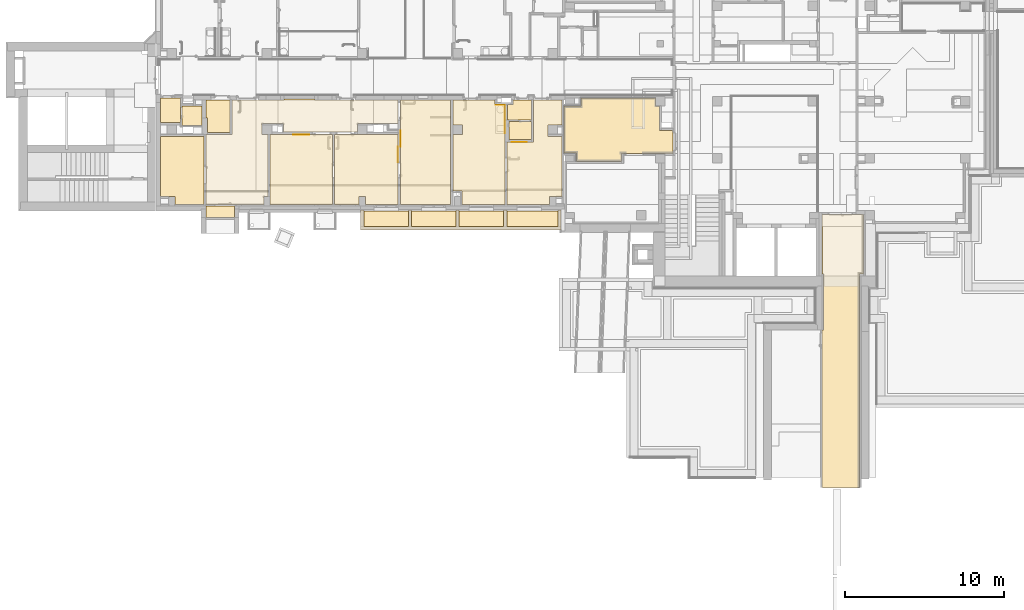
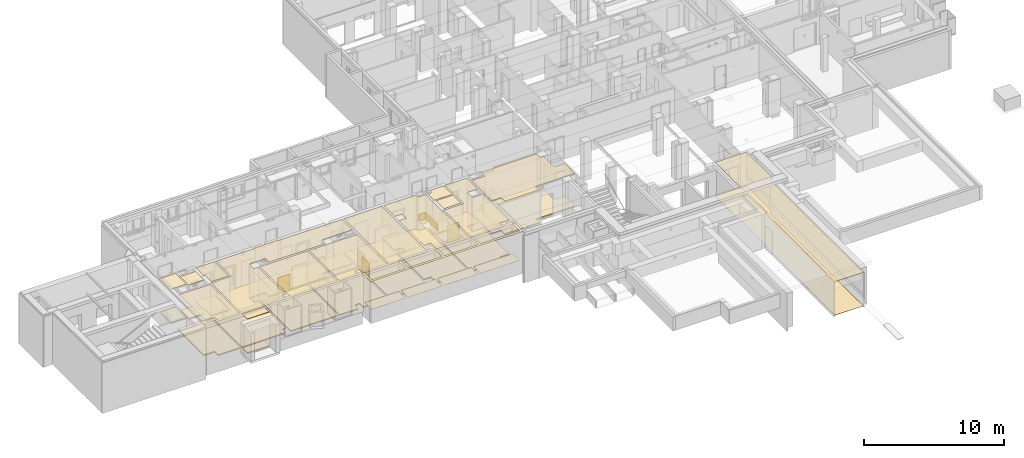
# One storey, part 76 of 84: 40 coverings.
"""IFC4 building model written with IfcOpenShell, lengths in metres."""

from ifc_helpers import new_model, entity, si_unit, converted_unit, derived_unit, frame, frame_2d, origin, origin_with_axes, place, context, subcontext, project, spatial, polyline, rectangle, outline, extrude, material, layer, layer_set, layer_usage, element, save


model = new_model("IFC4")

# Units and contexts
model_context = context("Model", 3, precision=1e-05, world=origin())
body_context = subcontext(model_context, "Body", "Model", "MODEL_VIEW")
ifc_project = project(units=[si_unit("LENGTHUNIT", "METRE"), si_unit("AREAUNIT", "SQUARE_METRE"), si_unit("VOLUMEUNIT", "CUBIC_METRE"), si_unit("MASSUNIT", "GRAM", prefix="KILO"), converted_unit("PLANEANGLEUNIT", "DEGREE", entity("IfcPlaneAngleMeasure", 0.0174532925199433), si_unit("PLANEANGLEUNIT", "RADIAN"), dimensions=[0, 0, 0, 0, 0, 0, 0]), derived_unit("THERMALTRANSMITTANCEUNIT", [(si_unit("POWERUNIT", "WATT"), 1), (si_unit("THERMODYNAMICTEMPERATUREUNIT", "KELVIN"), -1), (si_unit("LENGTHUNIT", "METRE"), -2)]), derived_unit("VOLUMETRICFLOWRATEUNIT", [(si_unit("LENGTHUNIT", "METRE"), 3), (converted_unit("TIMEUNIT", "hour", entity("IfcTimeMeasure", 3600.0), si_unit("TIMEUNIT", "SECOND"), dimensions=[0, 0, 1, 0, 0, 0, 0]), -1), (si_unit("LENGTHUNIT", "METRE"), -1)])], contexts=[model_context])

# Site, building, storey
site_placement = place(None, origin())
site = spatial("IfcSite", under=ifc_project, at=site_placement, Name="3. ASŘ", CompositionType="ELEMENT")
building_placement = place(site_placement, origin())
building = spatial("IfcBuilding", under=site, at=building_placement, Name="Pavilon C", CompositionType="ELEMENT")
storey_placement = place(building_placement, frame((0.0, 0.0, -3.3)))
storey = spatial("IfcBuildingStorey", under=building, at=storey_placement, Name="Půdorys 1.PP", CompositionType="ELEMENT", Elevation=-3.3)

# Coverings
ifc_material_1 = material(Name="KERAMICKÝ OBKLAD")
ifc_layer_1 = layer(ifc_material_1, 0.015)
ifc_layer_set_1 = layer_set([ifc_layer_1])
ifc_layer_usage_1 = layer_usage(ifc_layer_set_1, "AXIS3", "POSITIVE", 0.0)
covering_1_placement = place(storey_placement, frame((14.43, 4.3375, 0.1)))
element("IfcCovering", 1, at=covering_1_placement, inside=storey, material=ifc_layer_usage_1, PredefinedType="CLADDING", context=body_context, shape_type="SweptSolid", body=[
    extrude(rectangle(XDim=1.4, YDim=1.0, at=frame_2d((-0.5, -0.7), x_axis=(0.0, -1.0))), frame((3.63797880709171e-15, 1.0, 0.0), z_axis=(-1.0, 3.63797880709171e-15, 0.0), x_axis=(3.63797880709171e-15, 1.0, 0.0)), (0.0, 0.0, 1.0), 0.015),
])
ifc_material_2 = material(Name="KERAMICKÝ OBKLAD")
ifc_layer_2 = layer(ifc_material_2, 0.015)
ifc_layer_set_2 = layer_set([ifc_layer_2])
ifc_layer_usage_2 = layer_usage(ifc_layer_set_2, "AXIS3", "POSITIVE", 0.0)
covering_2_placement = place(storey_placement, frame((21.4125, 4.595, 0.0)))
element("IfcCovering", 2, at=covering_2_placement, inside=storey, material=ifc_layer_usage_2, PredefinedType="CLADDING", context=body_context, shape_type="SweptSolid", body=[
    extrude(rectangle(XDim=1.5, YDim=0.949999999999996, at=frame_2d((-0.474999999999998, -0.75), x_axis=(0.0, -1.0))), frame((0.949999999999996, 0.0, 0.0), z_axis=(0.0, 1.0, 0.0), x_axis=(1.0, 0.0, 0.0)), (0.0, 0.0, 1.0), 0.015),
])
ifc_material_3 = material(Name="KERAMICKÝ OBKLAD")
ifc_layer_3 = layer(ifc_material_3, 0.015)
ifc_layer_set_3 = layer_set([ifc_layer_3])
ifc_layer_usage_3 = layer_usage(ifc_layer_set_3, "AXIS3", "POSITIVE", 0.0)
covering_3_placement = place(storey_placement, frame((14.22, 3.35, 0.1)))
element("IfcCovering", 3, at=covering_3_placement, inside=storey, material=ifc_layer_usage_3, PredefinedType="CLADDING", context=body_context, shape_type="SweptSolid", body=[
    extrude(rectangle(XDim=1.4, YDim=0.987500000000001, at=frame_2d((-0.493750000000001, -0.7), x_axis=(0.0, -1.0))), frame((0.0, 0.0, 0.0), z_axis=(1.0, -3.68402917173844e-15, 0.0), x_axis=(-3.68402917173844e-15, -1.0, 0.0)), (0.0, 0.0, 1.0), 0.015),
])
ifc_material_4 = material(Name="KERAMICKÝ OBKLAD")
ifc_layer_4 = layer(ifc_material_4, 0.015)
ifc_layer_set_4 = layer_set([ifc_layer_4])
ifc_layer_usage_4 = layer_usage(ifc_layer_set_4, "AXIS3", "POSITIVE", 0.0)
covering_4_placement = place(storey_placement, frame((20.4, 5.175, 0.85)))
element("IfcCovering", 4, at=covering_4_placement, inside=storey, material=ifc_layer_usage_4, PredefinedType="CLADDING", context=body_context, shape_type="SweptSolid", body=[
    extrude(rectangle(XDim=0.6, YDim=0.57, at=frame_2d((-0.285, -0.3), x_axis=(0.0, -1.0))), frame((0.0, 1.77, 0.0), z_axis=(0.0, -1.0, 0.0), x_axis=(-1.0, 0.0, 0.0)), (0.0, 0.0, 1.0), 0.015),
    extrude(rectangle(XDim=0.6, YDim=1.77, at=frame_2d((-0.885, -0.3), x_axis=(0.0, -1.0))), frame((0.57, 1.77, 0.0), z_axis=(-1.0, 0.0, 0.0), x_axis=(0.0, 1.0, 0.0)), (0.0, 0.0, 1.0), 0.015),
])
ifc_material_5 = material(Name="KERAMICKÝ OBKLAD")
ifc_layer_5 = layer(ifc_material_5, 0.015)
ifc_layer_set_5 = layer_set([ifc_layer_5])
ifc_layer_usage_5 = layer_usage(ifc_layer_set_5, "AXIS3", "POSITIVE", 0.0)
covering_5_placement = place(storey_placement, frame((7.65000000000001, 5.07, 0.1)))
element("IfcCovering", 5, at=covering_5_placement, inside=storey, material=ifc_layer_usage_5, PredefinedType="CLADDING", context=body_context, shape_type="SweptSolid", body=[
    extrude(rectangle(XDim=1.4, YDim=1.0, at=frame_2d((-0.5, -0.7), x_axis=(0.0, -1.0))), frame((-9.09494701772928e-16, 0.0, 0.0), z_axis=(0.0, -1.0, 0.0), x_axis=(-1.0, 0.0, 0.0)), (0.0, 0.0, 1.0), 0.015),
])
ifc_material_6 = material(Name="SANACE BETONU")
ifc_layer_6 = layer(ifc_material_6, 0.003)
ifc_layer_set_6 = layer_set([ifc_layer_6])
ifc_layer_usage_6 = layer_usage(ifc_layer_set_6, "AXIS3", "POSITIVE", 0.0)
covering_6_placement = place(storey_placement, frame((12.1, -0.705000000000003, 0.65)))
element("IfcCovering", 6, at=covering_6_placement, inside=storey, material=ifc_layer_usage_6, PredefinedType="FLOORING", context=body_context, shape_type="SweptSolid", body=[
    extrude(rectangle(XDim=2.8, YDim=0.999999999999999, at=frame_2d((1.4, 0.5), x_axis=(1.0, 0.0))), origin_with_axes(), (0.0, 0.0, 1.0), 0.003),
])
ifc_material_7 = material(Name="SANACE BETONU")
ifc_layer_7 = layer(ifc_material_7, 0.003)
ifc_layer_set_7 = layer_set([ifc_layer_7])
ifc_layer_usage_7 = layer_usage(ifc_layer_set_7, "AXIS3", "POSITIVE", 0.0)
covering_7_placement = place(storey_placement, frame((15.1, -0.705000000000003, 0.65)))
element("IfcCovering", 7, at=covering_7_placement, inside=storey, material=ifc_layer_usage_7, PredefinedType="FLOORING", context=body_context, shape_type="SweptSolid", body=[
    extrude(rectangle(XDim=0.999999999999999, YDim=2.8, at=frame_2d((1.4, -0.5), x_axis=(0.0, -1.0))), frame((-1.81898940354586e-15, 0.999999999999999, 0.0), z_axis=(0.0, 0.0, 1.0), x_axis=(1.0, 0.0, 0.0)), (0.0, 0.0, 1.0), 0.003),
])
ifc_material_8 = material(Name="SANACE BETONU")
ifc_layer_8 = layer(ifc_material_8, 0.003)
ifc_layer_set_8 = layer_set([ifc_layer_8])
ifc_layer_usage_8 = layer_usage(ifc_layer_set_8, "AXIS3", "POSITIVE", 0.0)
covering_8_placement = place(storey_placement, frame((18.1, -0.70500000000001, 0.65)))
element("IfcCovering", 8, at=covering_8_placement, inside=storey, material=ifc_layer_usage_8, PredefinedType="FLOORING", context=body_context, shape_type="SweptSolid", body=[
    extrude(rectangle(XDim=1.00000000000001, YDim=2.8, at=frame_2d((1.4, -0.500000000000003), x_axis=(0.0, -1.0))), frame((0.0, 1.00000000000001, 0.0), z_axis=(0.0, 0.0, 1.0), x_axis=(1.0, 0.0, 0.0)), (0.0, 0.0, 1.0), 0.003),
])
ifc_material_9 = material(Name="SANACE BETONU")
ifc_layer_9 = layer(ifc_material_9, 0.003)
ifc_layer_set_9 = layer_set([ifc_layer_9])
ifc_layer_usage_9 = layer_usage(ifc_layer_set_9, "AXIS3", "POSITIVE", 0.0)
covering_9_placement = place(storey_placement, frame((21.1, -0.70500000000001, 0.65)))
element("IfcCovering", 9, at=covering_9_placement, inside=storey, material=ifc_layer_usage_9, PredefinedType="FLOORING", context=body_context, shape_type="SweptSolid", body=[
    extrude(rectangle(XDim=1.0, YDim=3.225, at=frame_2d((1.6125, -0.500000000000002), x_axis=(0.0, -1.0))), frame((0.0, 1.0, 0.0), z_axis=(0.0, 0.0, 1.0), x_axis=(1.0, 0.0, 0.0)), (0.0, 0.0, 1.0), 0.003),
])
ifc_material_10 = material(Name="SANACE BETONU")
ifc_layer_10 = layer(ifc_material_10, 0.003)
ifc_layer_set_10 = layer_set([ifc_layer_10])
ifc_layer_usage_10 = layer_usage(ifc_layer_set_10, "AXIS3", "POSITIVE", 0.0)
covering_10_placement = place(storey_placement, frame((11.9, -0.90500000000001, 3.27)))
element("IfcCovering", 10, at=covering_10_placement, inside=storey, material=ifc_layer_usage_10, PredefinedType="FLOORING", context=body_context, shape_type="SweptSolid", body=[
    extrude(outline(polyline([(0.0, 1.26000000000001), (0.0, 7.27595761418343e-15), (12.625, 0.0), (12.625, 1.26), (12.425, 1.26), (12.425, 0.2), (9.2, 0.2), (9.2, 1.26), (9.0, 1.26), (9.0, 0.2), (6.2, 0.200000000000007), (6.2, 1.26000000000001), (6.0, 1.26000000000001), (6.0, 0.200000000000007), (3.2, 0.200000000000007), (3.2, 1.26000000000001), (3.0, 1.26000000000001), (3.0, 0.200000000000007), (0.2, 0.200000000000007), (0.2, 1.26000000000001), (0.0, 1.26000000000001)])), origin_with_axes(), (0.0, 0.0, 1.0), 0.003),
])

# Space
space_1_placement = place(storey_placement, frame((21.125, 0.7, -0.1)))
space_1 = spatial("IfcSpace", under=storey, at=space_1_placement, Name="-1.46", CompositionType="ELEMENT")

# Coverings
ifc_material_11 = material()
ifc_layer_11 = layer(ifc_material_11, 0.095)
ifc_material_12 = material(Name="ELEKTROSTATICKÝ VINYL")
ifc_layer_12 = layer(ifc_material_12, 0.005)
ifc_layer_set_11 = layer_set([ifc_layer_11, ifc_layer_12])
ifc_layer_usage_11 = layer_usage(ifc_layer_set_11, "AXIS3", "POSITIVE", 0.0)
covering_11_placement = place(space_1_placement, frame((0.0, 2.27373675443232e-16, 0.0)))
element("IfcCovering", 11, at=covering_11_placement, inside=space_1, material=ifc_layer_usage_11, PredefinedType="FLOORING", context=body_context, shape_type="SweptSolid", body=[
    extrude(outline(polyline([(3.45, 6.575), (1.65, 6.575), (1.65, 3.925), (0.0, 3.925), (0.0, 0.0), (2.675, 0.0), (2.675, 0.499999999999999), (3.45, 0.499999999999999), (3.45, 4.275), (2.575, 4.275), (2.575, 5.0), (3.45, 5.0), (3.45, 6.575)])), frame((0.0, -4.54747350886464e-16, 0.0), z_axis=(0.0, 0.0, 1.0), x_axis=(1.0, 0.0, 0.0)), (0.0, 0.0, 1.0), 0.1),
])
ifc_material_13 = material(Name="RASTR 3")
ifc_layer_13 = layer(ifc_material_13, 0.03)
ifc_layer_set_12 = layer_set([ifc_layer_13])
ifc_layer_usage_12 = layer_usage(ifc_layer_set_12, "AXIS3", "POSITIVE", 0.0)
covering_12_placement = place(space_1_placement, frame((0.0, 2.27373675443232e-16, 3.05)))
element("IfcCovering", 12, at=covering_12_placement, inside=space_1, material=ifc_layer_usage_12, PredefinedType="CEILING", context=body_context, shape_type="SweptSolid", body=[
    extrude(outline(polyline([(1.65, 0.0), (3.45, 0.0), (3.45, 1.575), (2.575, 1.575), (2.575, 2.3), (3.45, 2.3), (3.45, 6.075), (2.675, 6.075), (2.675, 6.575), (0.0, 6.575), (0.0, 2.65), (1.65, 2.65), (1.65, 0.0)])), frame((0.0, 6.575, 0.0), z_axis=(0.0, 0.0, -1.0), x_axis=(1.0, 0.0, 0.0)), (0.0, 0.0, 1.0), 0.03),
])

# Space
space_2_placement = place(storey_placement, frame((21.15, 6.025, -0.1)))
space_2 = spatial("IfcSpace", under=storey, at=space_2_placement, Name="-1.47", CompositionType="ELEMENT")

# Coverings
ifc_material_14 = material()
ifc_layer_14 = layer(ifc_material_14, 0.085)
ifc_material_15 = material(Name="KERAMICKÁ DLAŽBA")
ifc_layer_15 = layer(ifc_material_15, 0.015)
ifc_layer_set_13 = layer_set([ifc_layer_14, ifc_layer_15])
ifc_layer_usage_13 = layer_usage(ifc_layer_set_13, "AXIS3", "POSITIVE", 0.0)
covering_13_placement = place(space_2_placement, frame((0.0, -9.09494701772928e-16, 0.0)))
element("IfcCovering", 13, at=covering_13_placement, inside=space_2, material=ifc_layer_usage_13, PredefinedType="FLOORING", context=body_context, shape_type="SweptSolid", body=[
    extrude(outline(polyline([(1.5, 1.25), (0.35, 1.25), (0.35, 0.950000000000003), (0.0, 0.950000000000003), (0.0, 0.0), (1.5, 9.09494701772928e-16), (1.5, 1.25)])), frame((0.0, 9.09494701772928e-16, 0.0), z_axis=(0.0, 0.0, 1.0), x_axis=(1.0, 0.0, 0.0)), (0.0, 0.0, 1.0), 0.1),
])
ifc_material_16 = material(Name="RASTR 2")
ifc_layer_16 = layer(ifc_material_16, 0.03)
ifc_layer_set_14 = layer_set([ifc_layer_16])
ifc_layer_usage_14 = layer_usage(ifc_layer_set_14, "AXIS3", "POSITIVE", 0.0)
covering_14_placement = place(space_2_placement, frame((0.0, -9.09494701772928e-16, 3.05)))
element("IfcCovering", 14, at=covering_14_placement, inside=space_2, material=ifc_layer_usage_14, PredefinedType="CEILING", context=body_context, shape_type="SweptSolid", body=[
    extrude(outline(polyline([(0.35, 0.0), (1.5, 0.0), (1.5, 1.25), (0.0, 1.25), (0.0, 0.3), (0.35, 0.3), (0.35, 0.0)])), frame((0.0, 1.25, 0.0), z_axis=(0.0, 0.0, -1.0), x_axis=(1.0, 0.0, 0.0)), (0.0, 0.0, 1.0), 0.03),
])

# Space
space_3_placement = place(storey_placement, frame((21.25, 4.775, -0.1)))
space_3 = spatial("IfcSpace", under=storey, at=space_3_placement, Name="-1.48", CompositionType="ELEMENT")

# Coverings
ifc_material_17 = material()
ifc_layer_17 = layer(ifc_material_17, 0.085)
ifc_material_18 = material(Name="KERAMICKÁ DLAŽBA")
ifc_layer_18 = layer(ifc_material_18, 0.015)
ifc_layer_set_15 = layer_set([ifc_layer_17, ifc_layer_18])
ifc_layer_usage_15 = layer_usage(ifc_layer_set_15, "AXIS3", "POSITIVE", 0.0)
covering_15_placement = place(space_3_placement, origin())
element("IfcCovering", 15, at=covering_15_placement, inside=space_3, material=ifc_layer_usage_15, PredefinedType="FLOORING", context=body_context, shape_type="SweptSolid", body=[
    extrude(rectangle(XDim=1.4, YDim=1.15, at=frame_2d((-0.7, -0.575), x_axis=(-1.0, 0.0))), frame((1.4, 1.15, 0.0), z_axis=(0.0, 0.0, 1.0), x_axis=(1.0, 0.0, 0.0)), (0.0, 0.0, 1.0), 0.1),
])
ifc_material_19 = material(Name="RASTR 2")
ifc_layer_19 = layer(ifc_material_19, 0.03)
ifc_layer_set_16 = layer_set([ifc_layer_19])
ifc_layer_usage_16 = layer_usage(ifc_layer_set_16, "AXIS3", "POSITIVE", 0.0)
covering_16_placement = place(space_3_placement, frame((0.0, 0.0, 3.05)))
element("IfcCovering", 16, at=covering_16_placement, inside=space_3, material=ifc_layer_usage_16, PredefinedType="CEILING", context=body_context, shape_type="SweptSolid", body=[
    extrude(rectangle(XDim=1.4, YDim=1.15, at=frame_2d((0.7, 0.575), x_axis=(1.0, 0.0))), frame((0.0, 1.15, 0.0), z_axis=(0.0, 0.0, -1.0), x_axis=(1.0, 0.0, 0.0)), (0.0, 0.0, 1.0), 0.03),
])

# Space
space_4_placement = place(storey_placement, frame((17.7, 0.7, -0.1)))
space_4 = spatial("IfcSpace", under=storey, at=space_4_placement, Name="-1.49", CompositionType="ELEMENT")

# Coverings
ifc_material_20 = material()
ifc_layer_20 = layer(ifc_material_20, 0.095)
ifc_material_21 = material(Name="ELEKTROSTATICKÝ VINYL")
ifc_layer_21 = layer(ifc_material_21, 0.005)
ifc_layer_set_17 = layer_set([ifc_layer_20, ifc_layer_21])
ifc_layer_usage_17 = layer_usage(ifc_layer_set_17, "AXIS3", "POSITIVE", 0.0)
covering_17_placement = place(space_4_placement, frame((0.0, 2.27373675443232e-16, 0.0)))
element("IfcCovering", 17, at=covering_17_placement, inside=space_4, material=ifc_layer_usage_17, PredefinedType="FLOORING", context=body_context, shape_type="SweptSolid", body=[
    extrude(outline(polyline([(2.65000000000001, 6.575), (0.0, 6.575), (0.0, 5.0), (0.600000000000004, 5.0), (0.600000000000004, 4.4), (0.0, 4.4), (0.0, 0.824999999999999), (0.575000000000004, 0.824999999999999), (0.575000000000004, 0.0), (3.30000000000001, 0.0), (3.30000000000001, 6.275), (2.65000000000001, 6.275), (2.65000000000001, 6.575)])), origin_with_axes(), (0.0, 0.0, 1.0), 0.1),
])
ifc_material_22 = material(Name="RASTR 3")
ifc_layer_22 = layer(ifc_material_22, 0.03)
ifc_layer_set_18 = layer_set([ifc_layer_22])
ifc_layer_usage_18 = layer_usage(ifc_layer_set_18, "AXIS3", "POSITIVE", 0.0)
covering_18_placement = place(space_4_placement, frame((0.0, 2.27373675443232e-16, 3.05)))
element("IfcCovering", 18, at=covering_18_placement, inside=space_4, material=ifc_layer_usage_18, PredefinedType="CEILING", context=body_context, shape_type="SweptSolid", body=[
    extrude(outline(polyline([(0.0, 9.09494701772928e-16), (2.65000000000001, 0.0), (2.65000000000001, 0.3), (3.30000000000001, 0.3), (3.30000000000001, 6.575), (0.575000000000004, 6.575), (0.575000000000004, 5.75), (0.0, 5.75), (0.0, 2.175), (0.600000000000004, 2.175), (0.600000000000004, 1.575), (0.0, 1.575), (0.0, 9.09494701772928e-16)])), frame((0.0, 6.575, 0.0), z_axis=(0.0, 0.0, -1.0), x_axis=(1.0, 0.0, 0.0)), (0.0, 0.0, 1.0), 0.03),
])

# Space
space_5_placement = place(storey_placement, frame((14.4, 0.700000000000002, -0.1)))
space_5 = spatial("IfcSpace", under=storey, at=space_5_placement, Name="-1.50", CompositionType="ELEMENT")

# Coverings
ifc_material_23 = material()
ifc_layer_23 = layer(ifc_material_23, 0.095)
ifc_material_24 = material(Name="ELEKTROSTATICKÝ VINYL")
ifc_layer_24 = layer(ifc_material_24, 0.005)
ifc_layer_set_19 = layer_set([ifc_layer_23, ifc_layer_24])
ifc_layer_usage_19 = layer_usage(ifc_layer_set_19, "AXIS3", "POSITIVE", 0.0)
covering_19_placement = place(space_5_placement, frame((0.0, 2.27373675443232e-16, 0.0)))
element("IfcCovering", 19, at=covering_19_placement, inside=space_5, material=ifc_layer_usage_19, PredefinedType="FLOORING", context=body_context, shape_type="SweptSolid", body=[
    extrude(rectangle(XDim=3.15, YDim=6.575, at=frame_2d((-1.575, -3.2875), x_axis=(-1.0, 0.0))), frame((3.15, 6.575, 0.0), z_axis=(0.0, 0.0, 1.0), x_axis=(1.0, 0.0, 0.0)), (0.0, 0.0, 1.0), 0.1),
])
ifc_material_25 = material(Name="BARYTOVÁ OMÍTKA")
ifc_layer_25 = layer(ifc_material_25, 0.015)
ifc_material_26 = material(Name="RASTR 3")
ifc_layer_26 = layer(ifc_material_26, 0.03)
ifc_layer_set_20 = layer_set([ifc_layer_25, ifc_layer_26])
ifc_layer_usage_20 = layer_usage(ifc_layer_set_20, "AXIS3", "POSITIVE", 0.0)
covering_20_placement = place(space_5_placement, frame((0.0, 2.27373675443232e-16, 3.05)))
element("IfcCovering", 20, at=covering_20_placement, inside=space_5, material=ifc_layer_usage_20, PredefinedType="CEILING", context=body_context, shape_type="SweptSolid", body=[
    extrude(rectangle(XDim=3.15, YDim=6.575, at=frame_2d((1.575, 3.2875), x_axis=(1.0, 0.0))), frame((0.0, 6.575, 0.0), z_axis=(0.0, 0.0, -1.0), x_axis=(1.0, 0.0, 0.0)), (0.0, 0.0, 1.0), 0.045),
])

# Space
space_6_placement = place(storey_placement, frame((10.25, 0.700000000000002, -0.1)))
space_6 = spatial("IfcSpace", under=storey, at=space_6_placement, Name="-1.51", CompositionType="ELEMENT")

# Coverings
ifc_material_27 = material()
ifc_layer_27 = layer(ifc_material_27, 0.095)
ifc_material_28 = material(Name="ELEKTROSTATICKÝ VINYL")
ifc_layer_28 = layer(ifc_material_28, 0.005)
ifc_layer_set_21 = layer_set([ifc_layer_27, ifc_layer_28])
ifc_layer_usage_21 = layer_usage(ifc_layer_set_21, "AXIS3", "POSITIVE", 0.0)
covering_21_placement = place(space_6_placement, frame((0.0, 2.27373675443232e-16, 0.0)))
element("IfcCovering", 21, at=covering_21_placement, inside=space_6, material=ifc_layer_usage_21, PredefinedType="FLOORING", context=body_context, shape_type="SweptSolid", body=[
    extrude(outline(polyline([(4.0, 0.0), (4.0, 4.4), (0.0, 4.4), (0.0, 0.0), (1.55, 0.0), (1.55, 0.5), (1.95, 0.500000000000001), (1.95, 0.0), (4.0, 0.0)])), frame((0.0, -2.27373675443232e-16, 0.0), z_axis=(0.0, 0.0, 1.0), x_axis=(1.0, 0.0, 0.0)), (0.0, 0.0, 1.0), 0.1),
])
ifc_material_29 = material(Name="RASTR 3")
ifc_layer_29 = layer(ifc_material_29, 0.03)
ifc_layer_set_22 = layer_set([ifc_layer_29])
ifc_layer_usage_22 = layer_usage(ifc_layer_set_22, "AXIS3", "POSITIVE", 0.0)
covering_22_placement = place(space_6_placement, frame((0.0, 2.27373675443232e-16, 3.05)))
element("IfcCovering", 22, at=covering_22_placement, inside=space_6, material=ifc_layer_usage_22, PredefinedType="CEILING", context=body_context, shape_type="SweptSolid", body=[
    extrude(outline(polyline([(4.0, 0.0), (4.0, 4.4), (1.95, 4.4), (1.95, 3.9), (1.55, 3.9), (1.55, 4.4), (0.0, 4.4), (0.0, 0.0), (4.0, 0.0)])), frame((0.0, 4.4, 0.0), z_axis=(0.0, 0.0, -1.0), x_axis=(1.0, 0.0, 0.0)), (0.0, 0.0, 1.0), 0.03),
])

# Space
space_7_placement = place(storey_placement, frame((6.2, 0.700000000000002, -0.1)))
space_7 = spatial("IfcSpace", under=storey, at=space_7_placement, Name="-1.52", CompositionType="ELEMENT")

# Coverings
ifc_material_30 = material()
ifc_layer_30 = layer(ifc_material_30, 0.095)
ifc_material_31 = material(Name="ELEKTROSTATICKÝ VINYL")
ifc_layer_31 = layer(ifc_material_31, 0.005)
ifc_layer_set_23 = layer_set([ifc_layer_30, ifc_layer_31])
ifc_layer_usage_23 = layer_usage(ifc_layer_set_23, "AXIS3", "POSITIVE", 0.0)
covering_23_placement = place(space_7_placement, frame((-9.09494701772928e-16, 2.27373675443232e-16, 0.0)))
element("IfcCovering", 23, at=covering_23_placement, inside=space_7, material=ifc_layer_usage_23, PredefinedType="FLOORING", context=body_context, shape_type="SweptSolid", body=[
    extrude(rectangle(XDim=3.925, YDim=4.4, at=frame_2d((-1.9625, -2.2), x_axis=(-1.0, 0.0))), frame((3.925, 4.4, 0.0), z_axis=(0.0, 0.0, 1.0), x_axis=(1.0, 0.0, 0.0)), (0.0, 0.0, 1.0), 0.1),
])
ifc_material_32 = material(Name="RASTR 3")
ifc_layer_32 = layer(ifc_material_32, 0.03)
ifc_layer_set_24 = layer_set([ifc_layer_32])
ifc_layer_usage_24 = layer_usage(ifc_layer_set_24, "AXIS3", "POSITIVE", 0.0)
covering_24_placement = place(space_7_placement, frame((-9.09494701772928e-16, 2.27373675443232e-16, 3.05)))
element("IfcCovering", 24, at=covering_24_placement, inside=space_7, material=ifc_layer_usage_24, PredefinedType="CEILING", context=body_context, shape_type="SweptSolid", body=[
    extrude(rectangle(XDim=3.925, YDim=4.4, at=frame_2d((1.9625, 2.2), x_axis=(1.0, 0.0))), frame((9.09494701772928e-16, 4.4, 0.0), z_axis=(0.0, 0.0, -1.0), x_axis=(1.0, 0.0, 0.0)), (0.0, 0.0, 1.0), 0.03),
])

# Space
space_8_placement = place(storey_placement, frame((2.15, 0.700000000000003, -0.1)))
space_8 = spatial("IfcSpace", under=storey, at=space_8_placement, Name="-1.53", CompositionType="ELEMENT")

# Coverings
ifc_material_33 = material()
ifc_layer_33 = layer(ifc_material_33, 0.095)
ifc_material_34 = material(Name="PŘÍRODNÍ LINOLEUM")
ifc_layer_34 = layer(ifc_material_34, 0.005)
ifc_layer_set_25 = layer_set([ifc_layer_33, ifc_layer_34])
ifc_layer_usage_25 = layer_usage(ifc_layer_set_25, "AXIS3", "POSITIVE", 0.0)
covering_25_placement = place(space_8_placement, frame((0.0, 4.54747350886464e-16, 0.0)))
element("IfcCovering", 25, at=covering_25_placement, inside=space_8, material=ifc_layer_usage_25, PredefinedType="FLOORING", context=body_context, shape_type="SweptSolid", body=[
    extrude(outline(polyline([(0.0, 9.09494701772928e-16), (3.65, 0.0), (3.65, 0.5), (3.925, 0.5), (3.925, 4.4), (3.55000000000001, 4.4), (3.55000000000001, 5.075), (4.87500000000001, 5.075), (4.87500000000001, 4.55), (9.55000000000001, 4.55), (9.55000000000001, 5.075), (12.1, 5.075), (12.1, 6.575), (6.85000000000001, 6.575), (6.85000000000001, 6.625), (4.92500000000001, 6.625), (4.92500000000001, 6.575), (1.645, 6.575), (1.645, 4.4), (0.0, 4.4), (0.0, 9.09494701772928e-16)])), frame((0.0, -9.09494701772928e-16, 0.0), z_axis=(0.0, 0.0, 1.0), x_axis=(1.0, 0.0, 0.0)), (0.0, 0.0, 1.0), 0.1),
])
ifc_material_35 = material(Name="RASTR 1")
ifc_layer_35 = layer(ifc_material_35, 0.03)
ifc_layer_set_26 = layer_set([ifc_layer_35])
ifc_layer_usage_26 = layer_usage(ifc_layer_set_26, "AXIS3", "POSITIVE", 0.0)
covering_26_placement = place(space_8_placement, frame((0.0, 4.54747350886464e-16, 3.05)))
element("IfcCovering", 26, at=covering_26_placement, inside=space_8, material=ifc_layer_usage_26, PredefinedType="CEILING", context=body_context, shape_type="SweptSolid", body=[
    extrude(outline(polyline([(3.65, 6.625), (0.0, 6.625), (0.0, 2.225), (1.645, 2.225), (1.645, 0.0500000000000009), (4.92500000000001, 0.05), (4.92500000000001, 0.0), (6.85000000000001, 0.0), (6.85000000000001, 0.05), (12.1, 0.05), (12.1, 1.55), (9.55000000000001, 1.55), (9.55000000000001, 2.075), (4.87500000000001, 2.075), (4.87500000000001, 1.55), (3.55000000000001, 1.55), (3.55000000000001, 2.225), (3.925, 2.225), (3.925, 6.125), (3.65, 6.125), (3.65, 6.625)])), frame((0.0, 6.625, 0.0), z_axis=(0.0, 0.0, -1.0), x_axis=(1.0, 0.0, 0.0)), (0.0, 0.0, 1.0), 0.03),
])

# Space
space_9_placement = place(storey_placement, frame((-0.699999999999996, 0.700000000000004, -0.1)))
space_9 = spatial("IfcSpace", under=storey, at=space_9_placement, Name="-1.55", CompositionType="ELEMENT")

# Coverings
ifc_material_36 = material()
ifc_layer_36 = layer(ifc_material_36, 0.095)
ifc_material_37 = material(Name="ELEKTROSTATICKÝ VINYL")
ifc_layer_37 = layer(ifc_material_37, 0.005)
ifc_layer_set_27 = layer_set([ifc_layer_36, ifc_layer_37])
ifc_layer_usage_27 = layer_usage(ifc_layer_set_27, "AXIS3", "POSITIVE", 0.0)
covering_27_placement = place(space_9_placement, frame((1.13686837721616e-16, -2.27373675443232e-16, 0.0)))
element("IfcCovering", 27, at=covering_27_placement, inside=space_9, material=ifc_layer_usage_27, PredefinedType="FLOORING", context=body_context, shape_type="SweptSolid", body=[
    extrude(outline(polyline([(2.725, 4.275), (0.0, 4.275), (0.0, 0.5), (0.9, 0.5), (0.9, 0.0), (2.725, 0.0), (2.725, 4.275)])), frame((-1.13686837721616e-16, 2.27373675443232e-16, 0.0), z_axis=(0.0, 0.0, 1.0), x_axis=(1.0, 0.0, 0.0)), (0.0, 0.0, 1.0), 0.1),
])
ifc_material_38 = material(Name="SÁDROVÁ OMÍTKA")
ifc_layer_38 = layer(ifc_material_38, 0.015)
ifc_material_39 = material(Name="MALBA")
ifc_layer_39 = layer(ifc_material_39, 0.005)
ifc_layer_set_28 = layer_set([ifc_layer_38, ifc_layer_39])
ifc_layer_usage_28 = layer_usage(ifc_layer_set_28, "AXIS3", "POSITIVE", 0.0)
covering_28_placement = place(space_9_placement, frame((1.13686837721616e-16, -2.27373675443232e-16, 3.05)))
element("IfcCovering", 28, at=covering_28_placement, inside=space_9, material=ifc_layer_usage_28, PredefinedType="CEILING", context=body_context, shape_type="SweptSolid", body=[
    extrude(outline(polyline([(0.0, 0.0), (2.725, 0.0), (2.725, 4.275), (0.9, 4.275), (0.9, 3.775), (0.0, 3.775), (0.0, 0.0)])), frame((-1.13686837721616e-16, 4.275, 0.0), z_axis=(0.0, 0.0, -1.0), x_axis=(1.0, 0.0, 0.0)), (0.0, 0.0, 1.0), 0.02),
])

# Space
space_10_placement = place(storey_placement, frame((-0.699999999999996, 5.85, -0.1)))
space_10 = spatial("IfcSpace", under=storey, at=space_10_placement, Name="-1.56", CompositionType="ELEMENT")

# Coverings
ifc_material_40 = material()
ifc_layer_40 = layer(ifc_material_40, 0.085)
ifc_material_41 = material(Name="KERAMICKÁ DLAŽBA")
ifc_layer_41 = layer(ifc_material_41, 0.015)
ifc_layer_set_29 = layer_set([ifc_layer_40, ifc_layer_41])
ifc_layer_usage_29 = layer_usage(ifc_layer_set_29, "AXIS3", "POSITIVE", 0.0)
covering_29_placement = place(space_10_placement, origin())
element("IfcCovering", 29, at=covering_29_placement, inside=space_10, material=ifc_layer_usage_29, PredefinedType="FLOORING", context=body_context, shape_type="SweptSolid", body=[
    extrude(rectangle(XDim=1.245, YDim=1.55, at=frame_2d((-0.6225, -0.775), x_axis=(-1.0, 0.0))), frame((1.245, 1.55, 0.0), z_axis=(0.0, 0.0, 1.0), x_axis=(1.0, 0.0, 0.0)), (0.0, 0.0, 1.0), 0.1),
])
ifc_material_42 = material(Name="RASTR 2")
ifc_layer_42 = layer(ifc_material_42, 0.03)
ifc_layer_set_30 = layer_set([ifc_layer_42])
ifc_layer_usage_30 = layer_usage(ifc_layer_set_30, "AXIS3", "POSITIVE", 0.0)
covering_30_placement = place(space_10_placement, frame((0.0, 0.0, 3.05)))
element("IfcCovering", 30, at=covering_30_placement, inside=space_10, material=ifc_layer_usage_30, PredefinedType="CEILING", context=body_context, shape_type="SweptSolid", body=[
    extrude(rectangle(XDim=1.245, YDim=1.55, at=frame_2d((0.6225, 0.775), x_axis=(1.0, 0.0))), frame((0.0, 1.55, 0.0), z_axis=(0.0, 0.0, -1.0), x_axis=(1.0, 0.0, 0.0)), (0.0, 0.0, 1.0), 0.03),
])

# Space
space_11_placement = place(storey_placement, frame((0.645000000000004, 5.675, -0.1)))
space_11 = spatial("IfcSpace", under=storey, at=space_11_placement, Name="-1.56a", CompositionType="ELEMENT")

# Coverings
ifc_material_43 = material()
ifc_layer_43 = layer(ifc_material_43, 0.085)
ifc_material_44 = material(Name="KERAMICKÁ DLAŽBA")
ifc_layer_44 = layer(ifc_material_44, 0.015)
ifc_layer_set_31 = layer_set([ifc_layer_43, ifc_layer_44])
ifc_layer_usage_31 = layer_usage(ifc_layer_set_31, "AXIS3", "POSITIVE", 0.0)
covering_31_placement = place(space_11_placement, origin())
element("IfcCovering", 31, at=covering_31_placement, inside=space_11, material=ifc_layer_usage_31, PredefinedType="FLOORING", context=body_context, shape_type="SweptSolid", body=[
    extrude(rectangle(XDim=1.225, YDim=1.255, at=frame_2d((0.6275, -0.6125), x_axis=(0.0, -1.0))), frame((0.0, 1.225, 0.0), z_axis=(0.0, 0.0, 1.0), x_axis=(1.0, 0.0, 0.0)), (0.0, 0.0, 1.0), 0.1),
])
ifc_material_45 = material(Name="RASTR 2")
ifc_layer_45 = layer(ifc_material_45, 0.03)
ifc_layer_set_32 = layer_set([ifc_layer_45])
ifc_layer_usage_32 = layer_usage(ifc_layer_set_32, "AXIS3", "POSITIVE", 0.0)
covering_32_placement = place(space_11_placement, frame((0.0, 0.0, 3.05)))
element("IfcCovering", 32, at=covering_32_placement, inside=space_11, material=ifc_layer_usage_32, PredefinedType="CEILING", context=body_context, shape_type="SweptSolid", body=[
    extrude(rectangle(XDim=1.225, YDim=1.255, at=frame_2d((0.627500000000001, -0.6125), x_axis=(0.0, -1.0))), frame((0.0, 0.0, 0.0), z_axis=(0.0, 0.0, -1.0), x_axis=(1.0, 0.0, 0.0)), (0.0, 0.0, 1.0), 0.03),
])

# Space
space_12_placement = place(storey_placement, frame((2.15, -0.124999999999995, -0.1)))
space_12 = spatial("IfcSpace", under=storey, at=space_12_placement, Name="-1.54", CompositionType="ELEMENT")

# Coverings
ifc_material_46 = material()
ifc_layer_46 = layer(ifc_material_46, 0.095)
ifc_material_47 = material(Name="PŘÍRODNÍ LINOLEUM")
ifc_layer_47 = layer(ifc_material_47, 0.005)
ifc_layer_set_33 = layer_set([ifc_layer_46, ifc_layer_47])
ifc_layer_usage_33 = layer_usage(ifc_layer_set_33, "AXIS3", "POSITIVE", 0.0)
covering_33_placement = place(space_12_placement, origin())
element("IfcCovering", 33, at=covering_33_placement, inside=space_12, material=ifc_layer_usage_33, PredefinedType="FLOORING", context=body_context, shape_type="SweptSolid", body=[
    extrude(rectangle(XDim=1.8, YDim=0.724999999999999, at=frame_2d((-0.9, -0.362499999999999), x_axis=(-1.0, 0.0))), frame((1.8, 0.724999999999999, 0.0), z_axis=(0.0, 0.0, 1.0), x_axis=(1.0, 0.0, 0.0)), (0.0, 0.0, 1.0), 0.1),
])
ifc_material_48 = material(Name="SÁDROVÁ OMÍTKA")
ifc_layer_48 = layer(ifc_material_48, 0.015)
ifc_material_49 = material(Name="MALBA")
ifc_layer_49 = layer(ifc_material_49, 0.005)
ifc_layer_set_34 = layer_set([ifc_layer_48, ifc_layer_49])
ifc_layer_usage_34 = layer_usage(ifc_layer_set_34, "AXIS3", "POSITIVE", 0.0)
covering_34_placement = place(space_12_placement, frame((0.0, 0.0, 3.05)))
element("IfcCovering", 34, at=covering_34_placement, inside=space_12, material=ifc_layer_usage_34, PredefinedType="CEILING", context=body_context, shape_type="SweptSolid", body=[
    extrude(rectangle(XDim=1.8, YDim=0.724999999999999, at=frame_2d((0.9, 0.362499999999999), x_axis=(1.0, 0.0))), frame((0.0, 0.724999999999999, 0.0), z_axis=(0.0, 0.0, -1.0), x_axis=(1.0, 0.0, 0.0)), (0.0, 0.0, 1.0), 0.02),
])

# Space
space_13_placement = place(storey_placement, frame((24.7, 3.4, 0.0)))
space_13 = spatial("IfcSpace", under=storey, at=space_13_placement, Name="-1.05", CompositionType="ELEMENT")

# Coverings
ifc_material_50 = material()
ifc_layer_50 = layer(ifc_material_50, 0.08)
ifc_material_51 = material(Name="STÁVAJÍCÍ CEMENTOVÝ POTĚR")
ifc_layer_51 = layer(ifc_material_51, 0.02)
ifc_layer_set_35 = layer_set([ifc_layer_50, ifc_layer_51])
ifc_layer_usage_35 = layer_usage(ifc_layer_set_35, "AXIS3", "POSITIVE", 0.0)
covering_35_placement = place(space_13_placement, frame((0.0, -4.54747350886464e-16, 0.0)))
element("IfcCovering", 35, at=covering_35_placement, inside=space_13, material=ifc_layer_usage_35, PredefinedType="FLOORING", context=body_context, shape_type="SweptSolid", body=[
    extrude(outline(polyline([(5.75, 4.0), (1.075, 4.0), (1.075, 3.475), (0.0, 3.475), (0.0, 0.525), (0.775, 0.525), (0.775, 4.54747350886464e-16), (3.625, 0.0), (3.625, 0.5), (6.875, 0.5), (6.875, 1.95), (6.0, 1.95), (6.0, 3.5), (5.75, 3.5), (5.75, 4.0)])), frame((0.0, 4.54747350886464e-16, 0.0), z_axis=(0.0, 0.0, 1.0), x_axis=(1.0, 0.0, 0.0)), (0.0, 0.0, 1.0), 0.1),
])
ifc_material_52 = material(Name="AKUSTICKÝ OBKLAD")
ifc_layer_52 = layer(ifc_material_52, 0.05)
ifc_layer_set_36 = layer_set([ifc_layer_52])
ifc_layer_usage_36 = layer_usage(ifc_layer_set_36, "AXIS3", "POSITIVE", 0.0)
covering_36_placement = place(space_13_placement, frame((0.0, -4.54747350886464e-16, 2.95)))
element("IfcCovering", 36, at=covering_36_placement, inside=space_13, material=ifc_layer_usage_36, PredefinedType="CEILING", context=body_context, shape_type="SweptSolid", body=[
    extrude(outline(polyline([(1.075, 0.0), (5.75, 9.09494701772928e-16), (5.75, 0.500000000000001), (6.0, 0.500000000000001), (6.0, 2.05), (6.875, 2.05), (6.875, 3.5), (3.625, 3.5), (3.625, 4.0), (0.775, 4.0), (0.775, 3.475), (0.0, 3.475), (0.0, 0.525000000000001), (1.075, 0.525000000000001), (1.075, 0.0)])), frame((0.0, 4.0, 0.0), z_axis=(0.0, 0.0, -1.0), x_axis=(1.0, 0.0, 0.0)), (0.0, 0.0, 1.0), 0.05),
])

# Space
space_14_placement = place(storey_placement, frame((2.15, 5.225, -0.1)))
space_14 = spatial("IfcSpace", under=storey, at=space_14_placement, Name="-1.57", CompositionType="ELEMENT")

# Coverings
ifc_material_53 = material()
ifc_layer_53 = layer(ifc_material_53, 0.085)
ifc_material_54 = material(Name="KERAMICKÁ DLAŽBA")
ifc_layer_54 = layer(ifc_material_54, 0.015)
ifc_layer_set_37 = layer_set([ifc_layer_53, ifc_layer_54])
ifc_layer_usage_37 = layer_usage(ifc_layer_set_37, "AXIS3", "POSITIVE", 0.0)
covering_37_placement = place(space_14_placement, frame((-4.54747350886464e-16, 9.09494701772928e-16, 0.0)))
element("IfcCovering", 37, at=covering_37_placement, inside=space_14, material=ifc_layer_usage_37, PredefinedType="FLOORING", context=body_context, shape_type="SweptSolid", body=[
    extrude(outline(polyline([(1.52, 0.0), (1.52, 2.05), (0.0, 2.05), (0.0, 0.9), (0.1, 0.9), (0.1, 0.0), (1.52, 0.0)])), frame((4.54747350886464e-16, -9.09494701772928e-16, 0.0), z_axis=(0.0, 0.0, 1.0), x_axis=(1.0, 0.0, 0.0)), (0.0, 0.0, 1.0), 0.1),
])
ifc_material_55 = material(Name="RASTR 2")
ifc_layer_55 = layer(ifc_material_55, 0.03)
ifc_layer_set_38 = layer_set([ifc_layer_55])
ifc_layer_usage_38 = layer_usage(ifc_layer_set_38, "AXIS3", "POSITIVE", 0.0)
covering_38_placement = place(space_14_placement, frame((-4.54747350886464e-16, 9.09494701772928e-16, 3.05)))
element("IfcCovering", 38, at=covering_38_placement, inside=space_14, material=ifc_layer_usage_38, PredefinedType="CEILING", context=body_context, shape_type="SweptSolid", body=[
    extrude(outline(polyline([(1.52, 0.0), (1.52, 2.05), (0.1, 2.05), (0.1, 1.15), (0.0, 1.15), (0.0, 0.0), (1.52, 0.0)])), frame((4.54747350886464e-16, 2.05, 0.0), z_axis=(0.0, 0.0, -1.0), x_axis=(1.0, 0.0, 0.0)), (0.0, 0.0, 1.0), 0.03),
])

# Space
space_15_placement = place(storey_placement, frame((40.95, -17.125, 0.0)))
space_15 = spatial("IfcSpace", under=storey, at=space_15_placement, Name="-1.02", CompositionType="ELEMENT")

# Coverings
ifc_material_56 = material(Name="STÁVAJÍCÍ LINO")
ifc_layer_56 = layer(ifc_material_56, 0.005)
ifc_layer_set_39 = layer_set([ifc_layer_56])
ifc_layer_usage_39 = layer_usage(ifc_layer_set_39, "AXIS3", "POSITIVE", 0.0)
covering_39_placement = place(space_15_placement, origin())
element("IfcCovering", 39, at=covering_39_placement, inside=space_15, material=ifc_layer_usage_39, PredefinedType="FLOORING", context=body_context, shape_type="SweptSolid", body=[
    extrude(outline(polyline([(2.6, 17.2), (0.0, 17.2), (0.0, 13.425), (0.1, 13.425), (0.1, 9.925), (0.0, 9.925), (0.0, 0.0), (2.35, 1.45519152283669e-14), (2.35, 13.425), (2.6, 13.425), (2.6, 17.2)])), origin_with_axes(), (0.0, 0.0, 1.0), 0.005),
])
ifc_material_57 = material(Name="RASTR 1")
ifc_layer_57 = layer(ifc_material_57, 0.03)
ifc_layer_set_40 = layer_set([ifc_layer_57])
ifc_layer_usage_40 = layer_usage(ifc_layer_set_40, "AXIS3", "POSITIVE", 0.0)
covering_40_placement = place(space_15_placement, frame((0.0, 0.0, 2.95)))
element("IfcCovering", 40, at=covering_40_placement, inside=space_15, material=ifc_layer_usage_40, PredefinedType="CEILING", context=body_context, shape_type="SweptSolid", body=[
    extrude(outline(polyline([(0.0, 0.0), (2.6, 3.63797880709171e-15), (2.6, 3.775), (2.35, 3.775), (2.35, 17.2), (0.0, 17.2), (0.0, 7.27500000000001), (0.1, 7.27500000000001), (0.1, 3.775), (0.0, 3.775), (0.0, 0.0)])), frame((0.0, 17.2, 0.0), z_axis=(0.0, 0.0, -1.0), x_axis=(1.0, 0.0, 0.0)), (0.0, 0.0, 1.0), 0.03),
])

save(model, "model.ifc")
